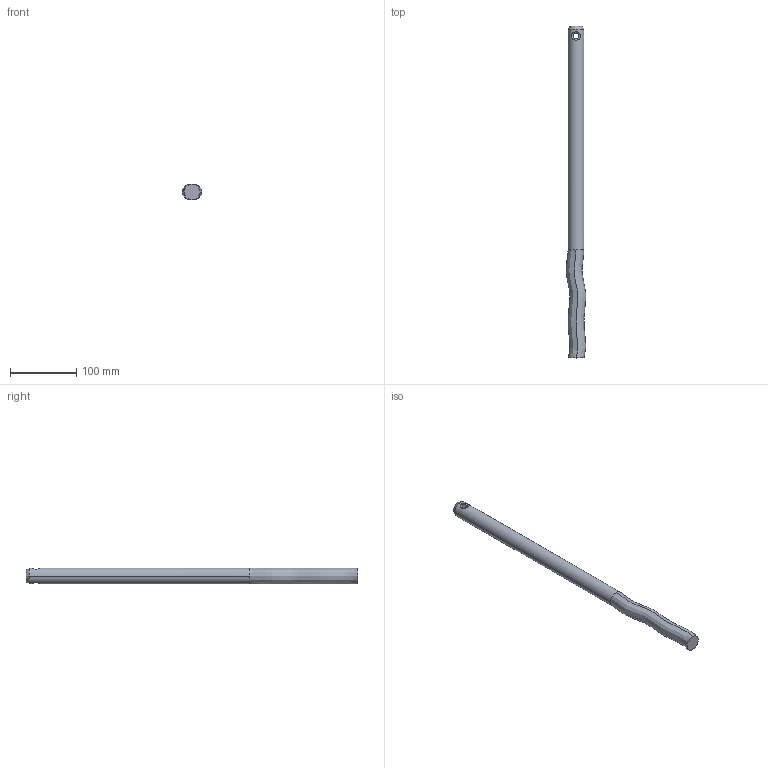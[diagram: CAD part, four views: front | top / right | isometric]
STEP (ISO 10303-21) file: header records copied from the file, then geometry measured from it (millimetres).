
FILE_DESCRIPTION (( 'STEP AP203' ), '1' );
FILE_NAME ('19820400.STEP', '2021-07-28T07:30:06', ( '' ), ( '' ), 'SwSTEP 2.0', 'SolidWorks 2013', '' );
FILE_SCHEMA (( 'CONFIG_CONTROL_DESIGN' ));
Length unit declared in the file: millimetre
Products named in the file (1): 19820400
Bounding box: 29.73 x 500 x 24 mm (x, y, z)
Volume: 224070.2 mm3; surface area: 38905 mm2
Topology: 1 solids, 1 shells, 14 faces, 33 edges, 21 vertices
Faces by surface type: bspline 6, cylinder 4, cone 2, plane 2
Entity records: 3641 total; most frequent: CARTESIAN_POINT 3278, ORIENTED_EDGE 66, DIRECTION 44, EDGE_CURVE 33, VERTEX_POINT 21, AXIS2_PLACEMENT_3D 19, B_SPLINE_CURVE_WITH_KNOTS 17, EDGE_LOOP 16
